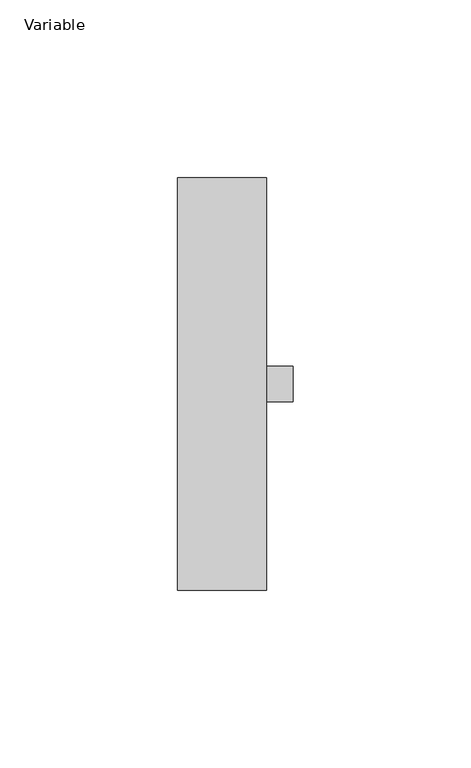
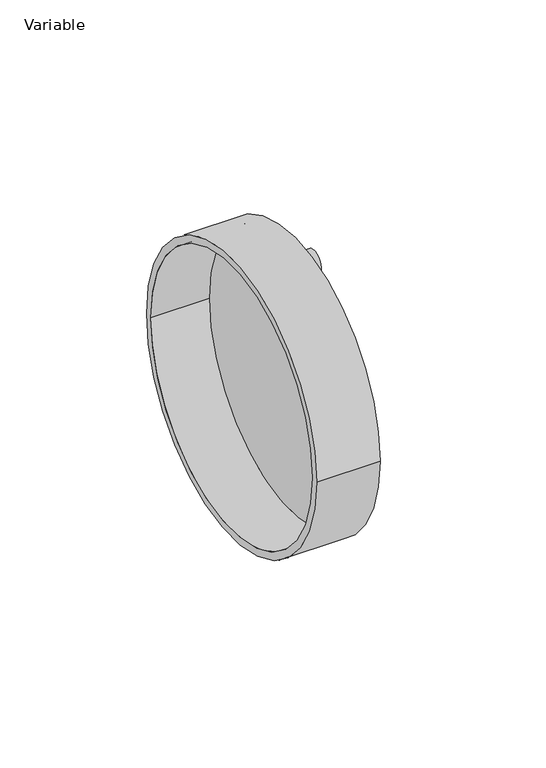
"""IFC4 building model written with IfcOpenShell, lengths in millimetres: pipe fitting geometry, AliaxisFR_Friaphon_ScrewCap_FR : Variable."""

from ifc_helpers import new_model, si_unit, point, frame, frame_2d, origin, place, context, project, spatial, polyline, circle_curve, trimmed, segment, composite_curve, outline, extrude, source, transform, mapped, element, save
from ifc_brep_helpers import plane_surface, cylinder_surface, revolved_surface, advanced_brep


def variable_5deffc85(model_context):
    return source(origin(), model_context, "Body", "SolidModel", [
        extrude(outline(composite_curve([segment(trimmed(circle_curve(frame_2d((0.0, 45.0)), 5.0), [point((-5.0, 45.0))], [point((5.0, 45.0))], False, "CARTESIAN"), True, "CONTINUOUS"), segment(trimmed(circle_curve(frame_2d((0.0, 45.0)), 5.0), [point((5.0, 45.0))], [point((-5.0, 45.0))], False, "CARTESIAN"), True, "CONTINUOUS")], self_intersect=False), holes=[composite_curve([segment(trimmed(circle_curve(frame_2d((0.0, 45.0)), 3.0), [point((-3.0, 45.0))], [point((3.0, 45.0))], True, "CARTESIAN"), True, "CONTINUOUS"), segment(trimmed(circle_curve(frame_2d((0.0, 45.0)), 3.0), [point((3.0, 45.0))], [point((-3.0, 45.0))], True, "CARTESIAN"), True, "CONTINUOUS")], self_intersect=False)]), frame((25.0, 0.0, 0.0), z_axis=(1.0, 0.0, 0.0), x_axis=(0.0, 1.0, 0.0)), (0.0, 0.0, 1.0), 7.5),
        extrude(outline(composite_curve([segment(trimmed(circle_curve(frame_2d((0.0, -45.0)), 5.0), [point((-5.0, -45.0))], [point((5.0, -45.0))], False, "CARTESIAN"), True, "CONTINUOUS"), segment(trimmed(circle_curve(frame_2d((0.0, -45.0)), 5.0), [point((5.0, -45.0))], [point((-5.0, -45.0))], False, "CARTESIAN"), True, "CONTINUOUS")], self_intersect=False), holes=[composite_curve([segment(trimmed(circle_curve(frame_2d((0.0, -45.0)), 3.0), [point((-3.0, -45.0))], [point((3.0, -45.0))], True, "CARTESIAN"), True, "CONTINUOUS"), segment(trimmed(circle_curve(frame_2d((0.0, -45.0)), 3.0), [point((3.0, -45.0))], [point((-3.0, -45.0))], True, "CARTESIAN"), True, "CONTINUOUS")], self_intersect=False)]), frame((25.0, 0.0, 0.0), z_axis=(1.0, 0.0, 0.0), x_axis=(0.0, 1.0, 0.0)), (0.0, 0.0, 1.0), 7.5),
        advanced_brep(
        [(25.0, -58.0, 0.0), (25.0, 58.0, 0.0), (0.0, -58.0, 0.0), (0.0, 58.0, 0.0), (0.0, -55.0, 0.0), (0.0, 55.0, 0.0), (23.125, -55.0, 0.0), (23.125, 55.0, 0.0)],
        [
            (0, 1, circle_curve(frame((25.0, 0.0, 0.0), z_axis=(1.0, 0.0, 0.0), x_axis=(0.0, 1.0, 0.0)), 58.0)),
            (1, 0, circle_curve(frame((25.0, 0.0, 0.0), z_axis=(1.0, 0.0, 0.0), x_axis=(0.0, 1.0, 0.0)), 58.0)),
            (2, 3, circle_curve(frame((0.0, 0.0, 0.0), z_axis=(-1.0, 0.0, 0.0), x_axis=(0.0, 1.0, 0.0)), 58.0)),
            (3, 2, circle_curve(frame((0.0, 0.0, 0.0), z_axis=(-1.0, 0.0, 0.0), x_axis=(0.0, 1.0, 0.0)), 58.0)),
            (4, 5, circle_curve(frame((0.0, 0.0, 0.0), z_axis=(1.0, 0.0, 0.0), x_axis=(0.0, 1.0, 0.0)), 55.0)),
            (5, 4, circle_curve(frame((0.0, 0.0, 0.0), z_axis=(1.0, 0.0, 0.0), x_axis=(0.0, 1.0, 0.0)), 55.0)),
            (0, 2),
            (3, 1),
            (6, 7, circle_curve(frame((23.125, 0.0, 0.0), z_axis=(-1.0, 0.0, 0.0), x_axis=(0.0, 1.0, 0.0)), 55.0)),
            (7, 6, circle_curve(frame((23.125, 0.0, 0.0), z_axis=(-1.0, 0.0, 0.0), x_axis=(0.0, 1.0, 0.0)), 55.0)),
            (7, 5),
            (4, 6),
        ],
        [
            plane_surface(frame((25.0, 58.0, 0.0), z_axis=(1.0, 0.0, 0.0), x_axis=(0.0, 0.0, 1.0))),
            plane_surface(frame((0.0, 58.0, 0.0), z_axis=(-1.0, 0.0, 0.0), x_axis=(0.0, 0.0, -1.0))),
            cylinder_surface(frame((0.0, 0.0, 0.0), z_axis=(1.0, 0.0, 0.0), x_axis=(0.0, 1.0, 0.0)), 58.0),
            plane_surface(frame((23.125, 55.0, 0.0), z_axis=(-1.0, 0.0, 0.0), x_axis=(0.0, 0.0, 1.0))),
            revolved_surface(polyline([(23.125, 55.0, 0.0), (0.0, 55.0, 0.0)]), (0.0, 0.0, 0.0), (1.0, 0.0, 0.0)),
        ],
        [
            (0, [[1, 2]]),
            (1, [[3, 4], [5, 6]]),
            (2, [[-1, 7, -4, 8]]),
            (2, [[-2, -8, -3, -7]]),
            (3, [[9, 10]]),
            (4, [[-10, 11, -5, 12]]),
            (4, [[-9, -12, -6, -11]]),
        ],
    ),
    ])


if __name__ == "__main__":
    model = new_model("IFC4")
    model_context = context("Model", 3, world=origin())
    ifc_project = project(units=[si_unit("LENGTHUNIT", "METRE", prefix="MILLI")], contexts=[model_context])
    site = spatial("IfcSite", under=ifc_project)
    building = spatial("IfcBuilding", under=site)
    placement = place(None, origin())
    variable_shape = variable_5deffc85(model_context)
    element("IfcPipeFitting", 1, ObjectType="AliaxisFR_Friaphon_ScrewCap_FR : Variable", at=placement, inside=building, context=model_context, shape_type="MappedRepresentation", body=[
        mapped(variable_shape, transform((0.0, 0.0, 0.0), x_axis=(1.0, 0.0, 0.0), y_axis=(0.0, 1.0, 0.0), z_axis=(0.0, 0.0, 1.0))),
    ])
    save(model, "model.ifc")
